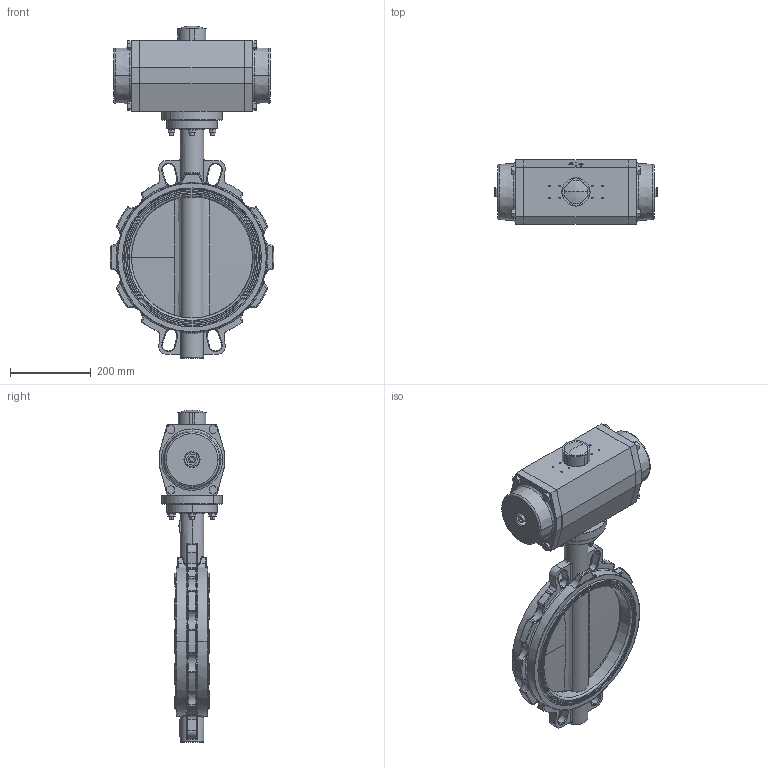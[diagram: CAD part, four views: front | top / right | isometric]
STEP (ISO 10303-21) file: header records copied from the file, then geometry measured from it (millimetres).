
FILE_DESCRIPTION (( 'STEP AP214' ), '1' );
FILE_NAME ('VTB200 DN300 + AP5.5D.STEP', '2015-12-02T08:15:20', ( '' ), ( '' ), 'SwSTEP 2.0', 'SolidWorks 2013', '' );
FILE_SCHEMA (( 'AUTOMOTIVE_DESIGN' ));
Length unit declared in the file: millimetre
Products named in the file (11): hex nut style 1 gradeab_iso_Hexagon Nut ISO - 4032 - M10 - W - N; plain washer chamfered grade a_iso_Washer ISO 7090 - 10; socket head cap screw_iso_ISO 4762 M10 x 50 --- 32N; socket head cap screw_iso_ISO 4762 M12 x 30 --- 30N; YF150F10F12H22; AP5.5_Default<As Machined>; VTB200 Wafer DN300 BS 2013; Typeplaatje xxmm; Klep VTB200 DN300 2013; Huis met zitting DN300 2013; VTB200 DN300 + AP5.5D
Assembly tree (22 placements, depth 3):
  VTB200 DN300 + AP5.5D
    VTB200 Wafer DN300 BS 2013
      Huis met zitting DN300 2013
      Klep VTB200 DN300 2013
      Typeplaatje xxmm
    AP5.5_Default<As Machined>
    YF150F10F12H22
    socket head cap screw_iso_ISO 4762 M12 x 30 --- 30N  x4
    socket head cap screw_iso_ISO 4762 M10 x 50 --- 32N  x4
    plain washer chamfered grade a_iso_Washer ISO 7090 - 10  x4
    hex nut style 1 gradeab_iso_Hexagon Nut ISO - 4032 - M10 - W - N  x4
Bounding box: 404.6 x 160 x 821.9 mm (x, y, z)
Volume: 14991151.3 mm3; surface area: 1018184.9 mm2
Topology: 32 solids, 32 shells, 1580 faces, 3823 edges, 2257 vertices
Faces by surface type: plane 588, cylinder 350, bspline 304, torus 196, cone 137, sphere 5
Entity records: 66752 total; most frequent: CARTESIAN_POINT 35042, ORIENTED_EDGE 6200, DIRECTION 5499, EDGE_CURVE 3100, AXIS2_PLACEMENT_3D 2150, VERTEX_POINT 1921, EDGE_LOOP 1435, FACE_OUTER_BOUND 1304
